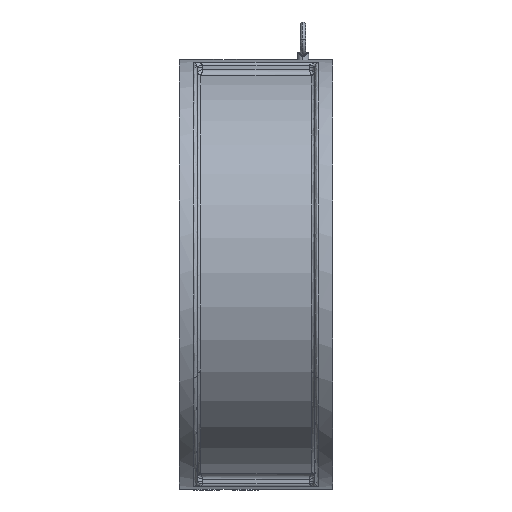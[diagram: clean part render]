
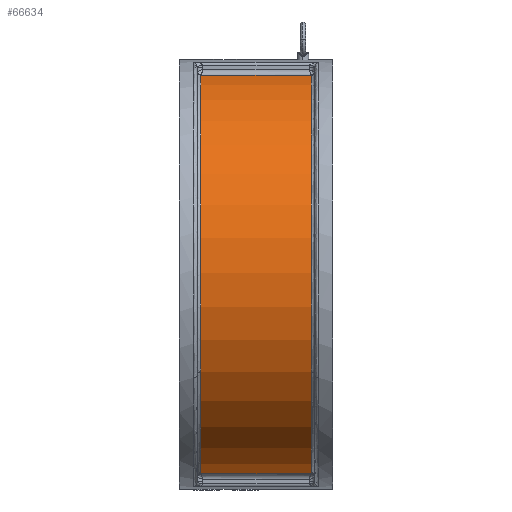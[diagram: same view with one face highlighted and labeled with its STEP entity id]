
A CAD part, left-side view. The second image highlights one B-rep face of the part: STEP entity #66634.
In plain terms, the highlighted cylindrical face has radius 282 mm (diameter 564 mm), a partial arc.
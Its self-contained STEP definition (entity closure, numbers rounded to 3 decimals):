
#1617 = CARTESIAN_POINT ( 'NONE',  ( -56.871, 30., 276.206 ) ) ;
#3120 = CARTESIAN_POINT ( 'NONE',  ( -56.516, 30.036, -276.279 ) ) ;
#4140 = VERTEX_POINT ( 'NONE', #26756 ) ;
#4680 = B_SPLINE_CURVE_WITH_KNOTS ( 'NONE', 3,
 ( #28936, #56543, #104315, #47866 ),
 .UNSPECIFIED., .F., .F.,
 ( 4, 4 ),
 ( 0., 1. ),
 .UNSPECIFIED. ) ;
#5039 = DIRECTION ( 'NONE',  ( -0.202, 0., 0.979 ) ) ;
#8528 = CARTESIAN_POINT ( 'NONE',  ( 0., 30., 0. ) ) ;
#8569 = CIRCLE ( 'NONE', #49389, 282. ) ;
#9206 = CARTESIAN_POINT ( 'NONE',  ( -56.4, 182.939, 276.302 ) ) ;
#10482 = VERTEX_POINT ( 'NONE', #9206 ) ;
#10702 = B_SPLINE_CURVE_WITH_KNOTS ( 'NONE', 5,
 ( #39057, #18515, #114458, #58030, #1617, #67481 ),
 .UNSPECIFIED., .F., .F.,
 ( 6, 6 ),
 ( 0., 1. ),
 .UNSPECIFIED. ) ;
#12304 = ORIENTED_EDGE ( 'NONE', *, *, #52710, .T. ) ;
#13324 = VERTEX_POINT ( 'NONE', #111407 ) ;
#13803 = FACE_OUTER_BOUND ( 'NONE', #14227, .T. ) ;
#14227 = EDGE_LOOP ( 'NONE', ( #30718, #21106, #26769, #67169, #68097, #109195, #37829, #81032, #12304, #20158 ) ) ;
#17274 = CIRCLE ( 'NONE', #85610, 282. ) ;
#17996 = DIRECTION ( 'NONE',  ( -0.878, 0., -0.479 ) ) ;
#18515 = CARTESIAN_POINT ( 'NONE',  ( -56.516, 30.036, 276.279 ) ) ;
#18532 = CARTESIAN_POINT ( 'NONE',  ( -56.99, 183., -276.181 ) ) ;
#20158 = ORIENTED_EDGE ( 'NONE', *, *, #62998, .F. ) ;
#21106 = ORIENTED_EDGE ( 'NONE', *, *, #113786, .T. ) ;
#21365 = CARTESIAN_POINT ( 'NONE',  ( -56.99, 183., -276.181 ) ) ;
#21755 = CARTESIAN_POINT ( 'NONE',  ( -56.595, 182.98, -276.263 ) ) ;
#22203 = VERTEX_POINT ( 'NONE', #93524 ) ;
#24924 = DIRECTION ( 'NONE',  ( 0., 0., -1. ) ) ;
#26756 = CARTESIAN_POINT ( 'NONE',  ( -56.4, 182.939, -276.302 ) ) ;
#26769 = ORIENTED_EDGE ( 'NONE', *, *, #53279, .F. ) ;
#27383 = AXIS2_PLACEMENT_3D ( 'NONE', #33976, #99893, #43423 ) ;
#28528 = EDGE_CURVE ( 'NONE', #55633, #22203, #8569, .T. ) ;
#28936 = CARTESIAN_POINT ( 'NONE',  ( -56.4, 182.939, 276.302 ) ) ;
#30718 = ORIENTED_EDGE ( 'NONE', *, *, #28528, .T. ) ;
#33976 = CARTESIAN_POINT ( 'NONE',  ( 0., 183., 0. ) ) ;
#34495 = EDGE_CURVE ( 'NONE', #40373, #4140, #59076, .T. ) ;
#34808 = CARTESIAN_POINT ( 'NONE',  ( -56.99, 183., 276.181 ) ) ;
#35221 = EDGE_CURVE ( 'NONE', #13324, #40373, #40773, .T. ) ;
#35929 = CYLINDRICAL_SURFACE ( 'NONE', #50571, 282. ) ;
#35964 = EDGE_CURVE ( 'NONE', #66910, #13324, #59958, .T. ) ;
#37829 = ORIENTED_EDGE ( 'NONE', *, *, #35221, .T. ) ;
#39057 = CARTESIAN_POINT ( 'NONE',  ( -56.4, 30.061, 276.302 ) ) ;
#39541 = CARTESIAN_POINT ( 'NONE',  ( -56.4, 30.061, -276.302 ) ) ;
#40373 = VERTEX_POINT ( 'NONE', #18532 ) ;
#40773 = CIRCLE ( 'NONE', #27383, 282. ) ;
#41805 = EDGE_CURVE ( 'NONE', #10482, #66910, #4680, .T. ) ;
#43423 = DIRECTION ( 'NONE',  ( -0.878, 0., -0.479 ) ) ;
#43556 = LINE ( 'NONE', #63441, #115825 ) ;
#44535 = VERTEX_POINT ( 'NONE', #77822 ) ;
#46317 = AXIS2_PLACEMENT_3D ( 'NONE', #110988, #54566, #120474 ) ;
#46548 = CARTESIAN_POINT ( 'NONE',  ( -56.99, 30., 276.181 ) ) ;
#47866 = CARTESIAN_POINT ( 'NONE',  ( -56.99, 183., 276.181 ) ) ;
#49389 = AXIS2_PLACEMENT_3D ( 'NONE', #8528, #74404, #17996 ) ;
#50571 = AXIS2_PLACEMENT_3D ( 'NONE', #81343, #99912, #24924 ) ;
#52710 = EDGE_CURVE ( 'NONE', #4140, #86580, #43556, .T. ) ;
#53279 = EDGE_CURVE ( 'NONE', #44535, #114768, #10702, .T. ) ;
#54566 = DIRECTION ( 'NONE',  ( 0., -1., 0. ) ) ;
#55633 = VERTEX_POINT ( 'NONE', #85471 ) ;
#56543 = CARTESIAN_POINT ( 'NONE',  ( -56.595, 182.98, 276.263 ) ) ;
#58030 = CARTESIAN_POINT ( 'NONE',  ( -56.752, 30.006, 276.23 ) ) ;
#59076 = B_SPLINE_CURVE_WITH_KNOTS ( 'NONE', 3,
 ( #21365, #115697, #21755, #87657 ),
 .UNSPECIFIED., .F., .F.,
 ( 4, 4 ),
 ( 0., 1. ),
 .UNSPECIFIED. ) ;
#59525 = CARTESIAN_POINT ( 'NONE',  ( -56.634, 30.018, -276.255 ) ) ;
#59958 = CIRCLE ( 'NONE', #46317, 282. ) ;
#61434 = DIRECTION ( 'NONE',  ( 0., 1., 0. ) ) ;
#62998 = EDGE_CURVE ( 'NONE', #55633, #86580, #113327, .T. ) ;
#63441 = CARTESIAN_POINT ( 'NONE',  ( -56.4, 106.5, -276.302 ) ) ;
#66634 = ADVANCED_FACE ( 'NONE', ( #13803 ), #35929, .T. ) ;
#66910 = VERTEX_POINT ( 'NONE', #34808 ) ;
#67169 = ORIENTED_EDGE ( 'NONE', *, *, #108371, .T. ) ;
#67481 = CARTESIAN_POINT ( 'NONE',  ( -56.99, 30., 276.181 ) ) ;
#68097 = ORIENTED_EDGE ( 'NONE', *, *, #41805, .T. ) ;
#68989 = CARTESIAN_POINT ( 'NONE',  ( -56.4, 30.061, -276.302 ) ) ;
#72908 = DIRECTION ( 'NONE',  ( 0., -1., 0. ) ) ;
#74404 = DIRECTION ( 'NONE',  ( 0., 1., 0. ) ) ;
#77822 = CARTESIAN_POINT ( 'NONE',  ( -56.4, 30.061, 276.302 ) ) ;
#81032 = ORIENTED_EDGE ( 'NONE', *, *, #34495, .T. ) ;
#81343 = CARTESIAN_POINT ( 'NONE',  ( 0., 183., 0. ) ) ;
#81681 = CARTESIAN_POINT ( 'NONE',  ( -56.4, 106.5, 276.302 ) ) ;
#82117 = VECTOR ( 'NONE', #91158, 1000. ) ;
#85092 = LINE ( 'NONE', #81681, #82117 ) ;
#85471 = CARTESIAN_POINT ( 'NONE',  ( -56.99, 30., -276.181 ) ) ;
#85610 = AXIS2_PLACEMENT_3D ( 'NONE', #117878, #61434, #5039 ) ;
#86580 = VERTEX_POINT ( 'NONE', #39541 ) ;
#87657 = CARTESIAN_POINT ( 'NONE',  ( -56.4, 182.939, -276.302 ) ) ;
#91158 = DIRECTION ( 'NONE',  ( 0., 1., 0. ) ) ;
#93524 = CARTESIAN_POINT ( 'NONE',  ( -247.478, 30., -135.198 ) ) ;
#97016 = CARTESIAN_POINT ( 'NONE',  ( -56.871, 30., -276.206 ) ) ;
#99893 = DIRECTION ( 'NONE',  ( 0., -1., 0. ) ) ;
#99912 = DIRECTION ( 'NONE',  ( 0., -1., 0. ) ) ;
#104315 = CARTESIAN_POINT ( 'NONE',  ( -56.791, 183., 276.222 ) ) ;
#105682 = CARTESIAN_POINT ( 'NONE',  ( -56.99, 30., -276.181 ) ) ;
#108371 = EDGE_CURVE ( 'NONE', #44535, #10482, #85092, .T. ) ;
#109195 = ORIENTED_EDGE ( 'NONE', *, *, #35964, .T. ) ;
#110988 = CARTESIAN_POINT ( 'NONE',  ( 0., 183., 0. ) ) ;
#111407 = CARTESIAN_POINT ( 'NONE',  ( -247.478, 183., -135.198 ) ) ;
#113327 = B_SPLINE_CURVE_WITH_KNOTS ( 'NONE', 5,
 ( #105682, #97016, #115962, #59525, #3120, #68989 ),
 .UNSPECIFIED., .F., .F.,
 ( 6, 6 ),
 ( 0., 1. ),
 .UNSPECIFIED. ) ;
#113786 = EDGE_CURVE ( 'NONE', #22203, #114768, #17274, .T. ) ;
#114458 = CARTESIAN_POINT ( 'NONE',  ( -56.634, 30.018, 276.255 ) ) ;
#114768 = VERTEX_POINT ( 'NONE', #46548 ) ;
#115697 = CARTESIAN_POINT ( 'NONE',  ( -56.791, 183., -276.222 ) ) ;
#115825 = VECTOR ( 'NONE', #72908, 1000. ) ;
#115962 = CARTESIAN_POINT ( 'NONE',  ( -56.752, 30.006, -276.23 ) ) ;
#117878 = CARTESIAN_POINT ( 'NONE',  ( 0., 30., 0. ) ) ;
#120474 = DIRECTION ( 'NONE',  ( -0.202, 0., 0.979 ) ) ;
